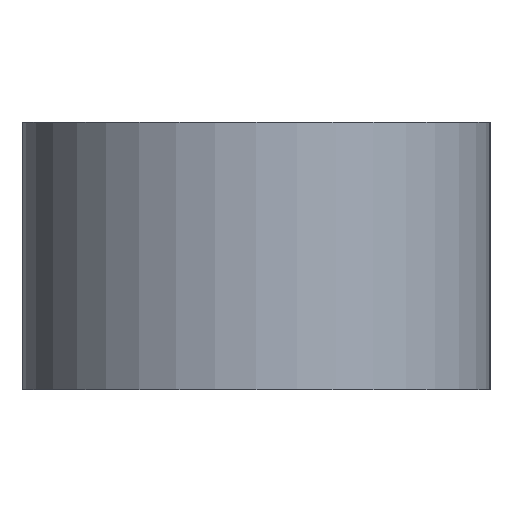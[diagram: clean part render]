
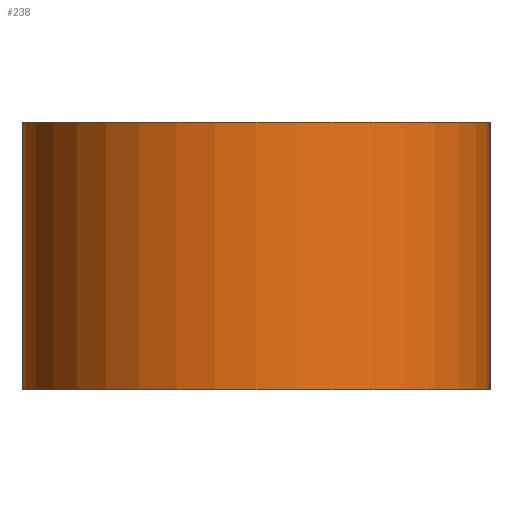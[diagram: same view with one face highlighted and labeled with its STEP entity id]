
A CAD part, left-side view. The second image highlights one B-rep face of the part: STEP entity #238.
In plain terms, the highlighted cylindrical face has radius 4 mm (diameter 8 mm), a partial arc.
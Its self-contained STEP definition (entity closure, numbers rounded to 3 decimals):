
#29 = DIRECTION ( 'NONE',  ( 0., 0., 1. ) ) ;
#47 = DIRECTION ( 'NONE',  ( 1., 0., 0. ) ) ;
#69 = FACE_OUTER_BOUND ( 'NONE', #420, .T. ) ;
#129 = VERTEX_POINT ( 'NONE', #165 ) ;
#165 = CARTESIAN_POINT ( 'NONE',  ( 4., 0., -2.286 ) ) ;
#169 = CARTESIAN_POINT ( 'NONE',  ( 0., 0., 2.286 ) ) ;
#236 = EDGE_CURVE ( 'NONE', #682, #129, #1059, .T. ) ;
#238 = ADVANCED_FACE ( 'NONE', ( #69 ), #709, .T. ) ;
#246 = EDGE_CURVE ( 'NONE', #826, #129, #900, .T. ) ;
#254 = DIRECTION ( 'NONE',  ( 0., 0., 1. ) ) ;
#323 = ORIENTED_EDGE ( 'NONE', *, *, #236, .T. ) ;
#329 = DIRECTION ( 'NONE',  ( -1., 0., 0. ) ) ;
#335 = CARTESIAN_POINT ( 'NONE',  ( 0., 0., 2.286 ) ) ;
#339 = CARTESIAN_POINT ( 'NONE',  ( 0., 0., -2.286 ) ) ;
#362 = CARTESIAN_POINT ( 'NONE',  ( 4., 0., 2.286 ) ) ;
#420 = EDGE_LOOP ( 'NONE', ( #323, #715, #661, #1157 ) ) ;
#421 = DIRECTION ( 'NONE',  ( 0., 0., -1. ) ) ;
#422 = CARTESIAN_POINT ( 'NONE',  ( -4., 0., -2.286 ) ) ;
#458 = VECTOR ( 'NONE', #738, 1000. ) ;
#469 = LINE ( 'NONE', #829, #894 ) ;
#566 = AXIS2_PLACEMENT_3D ( 'NONE', #169, #421, #329 ) ;
#602 = EDGE_CURVE ( 'NONE', #695, #826, #721, .T. ) ;
#661 = ORIENTED_EDGE ( 'NONE', *, *, #602, .F. ) ;
#682 = VERTEX_POINT ( 'NONE', #422 ) ;
#695 = VERTEX_POINT ( 'NONE', #936 ) ;
#709 = CYLINDRICAL_SURFACE ( 'NONE', #566, 4. ) ;
#715 = ORIENTED_EDGE ( 'NONE', *, *, #246, .F. ) ;
#721 = CIRCLE ( 'NONE', #858, 4. ) ;
#738 = DIRECTION ( 'NONE',  ( 0., 0., -1. ) ) ;
#753 = AXIS2_PLACEMENT_3D ( 'NONE', #339, #254, #47 ) ;
#826 = VERTEX_POINT ( 'NONE', #1085 ) ;
#829 = CARTESIAN_POINT ( 'NONE',  ( -4., 0., 2.286 ) ) ;
#858 = AXIS2_PLACEMENT_3D ( 'NONE', #335, #29, #953 ) ;
#894 = VECTOR ( 'NONE', #927, 1000. ) ;
#900 = LINE ( 'NONE', #362, #458 ) ;
#927 = DIRECTION ( 'NONE',  ( 0., 0., -1. ) ) ;
#936 = CARTESIAN_POINT ( 'NONE',  ( -4., 0., 2.286 ) ) ;
#937 = EDGE_CURVE ( 'NONE', #695, #682, #469, .T. ) ;
#953 = DIRECTION ( 'NONE',  ( 1., 0., 0. ) ) ;
#1059 = CIRCLE ( 'NONE', #753, 4. ) ;
#1085 = CARTESIAN_POINT ( 'NONE',  ( 4., 0., 2.286 ) ) ;
#1157 = ORIENTED_EDGE ( 'NONE', *, *, #937, .T. ) ;
